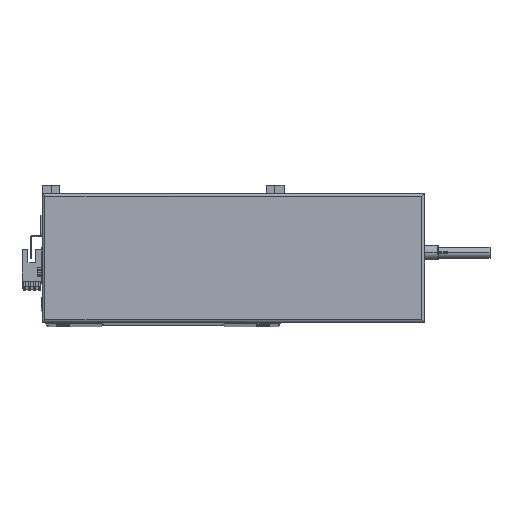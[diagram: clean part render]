
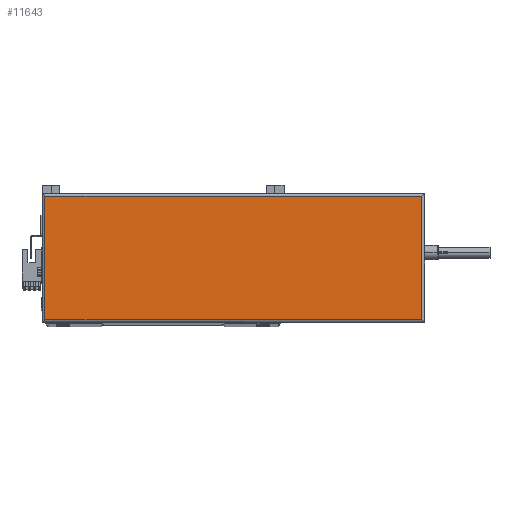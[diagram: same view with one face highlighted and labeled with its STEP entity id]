
A CAD part, top view. The second image highlights one B-rep face of the part: STEP entity #11643.
In plain terms, the highlighted planar face has unit normal (0, 0, 1).
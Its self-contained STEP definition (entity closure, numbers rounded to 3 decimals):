
#1491 = ORIENTED_EDGE ( 'NONE', *, *, #11133, .T. ) ;
#4942 = CARTESIAN_POINT ( 'NONE',  ( 2., 88., 44.8 ) ) ;
#5370 = VERTEX_POINT ( 'NONE', #29685 ) ;
#6194 = DIRECTION ( 'NONE',  ( 0., 1., 0. ) ) ;
#6295 = CARTESIAN_POINT ( 'NONE',  ( 133.5, 45., 44.8 ) ) ;
#8314 = ORIENTED_EDGE ( 'NONE', *, *, #49682, .T. ) ;
#9675 = VERTEX_POINT ( 'NONE', #27304 ) ;
#11133 = EDGE_CURVE ( 'NONE', #16516, #29750, #46599, .T. ) ;
#11643 = ADVANCED_FACE ( 'NONE', ( #18092 ), #29756, .T. ) ;
#16153 = LINE ( 'NONE', #50533, #16773 ) ;
#16516 = VERTEX_POINT ( 'NONE', #4942 ) ;
#16773 = VECTOR ( 'NONE', #30443, 1000. ) ;
#18092 = FACE_OUTER_BOUND ( 'NONE', #42343, .T. ) ;
#18561 = DIRECTION ( 'NONE',  ( 1., 0., 0. ) ) ;
#20261 = LINE ( 'NONE', #45269, #48104 ) ;
#20343 = VECTOR ( 'NONE', #6194, 1000. ) ;
#21990 = VECTOR ( 'NONE', #25947, 1000. ) ;
#24502 = CARTESIAN_POINT ( 'NONE',  ( 2., 0., 44.8 ) ) ;
#25947 = DIRECTION ( 'NONE',  ( 0., -1., 0. ) ) ;
#27304 = CARTESIAN_POINT ( 'NONE',  ( 265., 2., 44.8 ) ) ;
#28711 = CARTESIAN_POINT ( 'NONE',  ( 2., 2., 44.8 ) ) ;
#28793 = ORIENTED_EDGE ( 'NONE', *, *, #30033, .T. ) ;
#29685 = CARTESIAN_POINT ( 'NONE',  ( 265., 88., 44.8 ) ) ;
#29750 = VERTEX_POINT ( 'NONE', #28711 ) ;
#29756 = PLANE ( 'NONE',  #45100 ) ;
#30033 = EDGE_CURVE ( 'NONE', #5370, #16516, #16153, .T. ) ;
#30443 = DIRECTION ( 'NONE',  ( -1., 0., 0. ) ) ;
#39281 = DIRECTION ( 'NONE',  ( 0., 0., 1. ) ) ;
#40582 = ORIENTED_EDGE ( 'NONE', *, *, #44568, .T. ) ;
#41863 = LINE ( 'NONE', #50979, #20343 ) ;
#42343 = EDGE_LOOP ( 'NONE', ( #8314, #28793, #1491, #40582 ) ) ;
#44568 = EDGE_CURVE ( 'NONE', #29750, #9675, #20261, .T. ) ;
#45100 = AXIS2_PLACEMENT_3D ( 'NONE', #6295, #39281, #18561 ) ;
#45269 = CARTESIAN_POINT ( 'NONE',  ( 267., 2., 44.8 ) ) ;
#46599 = LINE ( 'NONE', #24502, #21990 ) ;
#48104 = VECTOR ( 'NONE', #49167, 1000. ) ;
#49167 = DIRECTION ( 'NONE',  ( 1., 0., 0. ) ) ;
#49682 = EDGE_CURVE ( 'NONE', #9675, #5370, #41863, .T. ) ;
#50533 = CARTESIAN_POINT ( 'NONE',  ( 0., 88., 44.8 ) ) ;
#50979 = CARTESIAN_POINT ( 'NONE',  ( 265., 90., 44.8 ) ) ;
